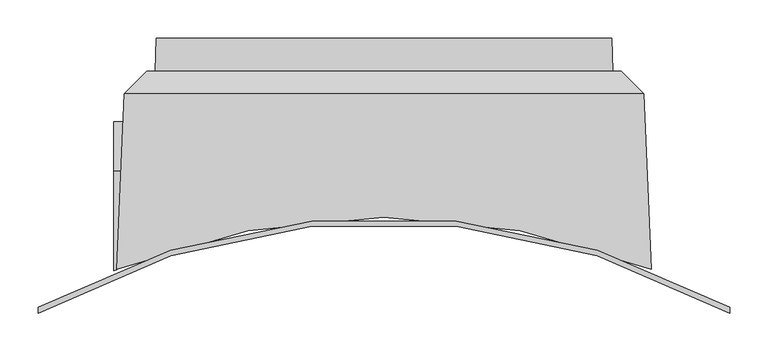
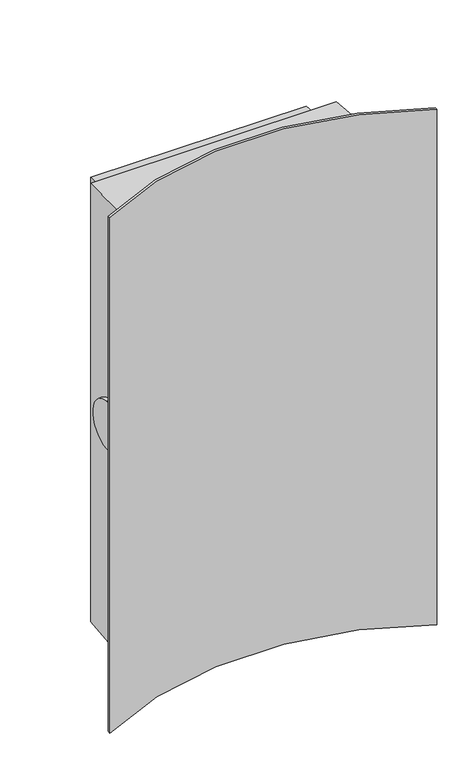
"""IFC4 building model written with IfcOpenShell, lengths in millimetres: proxy geometry, SU.MRADAPTOR.1850.600Lx1200W."""

from ifc_helpers import new_model, si_unit, frame, origin, place, context, project, spatial, polyline, circle_curve, ellipse_curve, source, transform, mapped, element, save
from ifc_brep_helpers import plane_surface, cylinder_surface, revolved_surface, advanced_brep


def generic_models_b710c0a7(model_context):
    return source(origin(), model_context, "Body", "AdvancedBrep", [
        advanced_brep(
        [(296.4984069, 250.0, -596.4984069), (-296.4984069, 250.0, -596.4984069), (-296.4984069, 250.0, 596.4984069), (296.4984069, 250.0, 596.4984069), (298.0, 207.0, -598.0), (-298.0, 207.0, -598.0), (-298.0, 207.0, 598.0), (298.0, 207.0, 598.0), (-450.0, -99.8385062, 750.0), (450.0, -99.8385062, 750.0), (450.0, -99.8385062, -750.0), (-450.0, -99.8385062, -750.0), (-347.7562357, -50.8590545, -80.0415625), (-347.7562357, -50.8590545, -647.7562357), (347.7562357, -50.8590545, -647.7562357), (347.7562357, -50.8590545, 647.7562357), (-347.7562357, -50.8590545, 647.7562357), (-347.7562357, -50.8590545, 80.0415625), (-352.0, -52.5930793, 80.1802845), (-352.0, -52.5930793, -80.1802845), (-338.1192031, 178.0204704, -638.1192031), (338.1192031, 178.0204704, -638.1192031), (-342.353871, 77.447108, -69.7770695), (-342.353871, 77.447108, 69.7770695), (-338.1192031, 178.0204704, 638.1192031), (-309.1396735, 207.0, -609.1396735), (309.1396735, 207.0, -609.1396735), (338.1192031, 178.0204704, 638.1192031), (-309.1396735, 207.0, 609.1396735), (309.1396735, 207.0, 609.1396735), (-352.0, 77.447108, 69.7770695), (-352.0, 77.447108, -69.7770695), (-450.0, -107.8600122, -750.0), (-450.0, -107.8600122, 750.0), (450.0, -107.8600122, -750.0), (450.0, -107.8600122, 750.0)],
        [
            (0, 1),
            (1, 2),
            (2, 3),
            (3, 0),
            (0, 4),
            (4, 5),
            (5, 1),
            (5, 6),
            (6, 2),
            (3, 7),
            (7, 4),
            (6, 7),
            (8, 9, circle_curve(frame((0.0, -908.0, 750.0), z_axis=(0.0, 0.0, -1.0), x_axis=(0.4864864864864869, 0.8736881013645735, 0.0)), 925.0)),
            (9, 10),
            (10, 11, circle_curve(frame((0.0, -908.0, -750.0), z_axis=(0.0, 0.0, 1.0), x_axis=(0.4864864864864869, 0.8736881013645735, 0.0)), 925.0)),
            (11, 8),
            (12, 13),
            (13, 14, ellipse_curve(frame((0.0, -908.0, -683.8463808), z_axis=(0.0, 0.04206798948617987, -0.9991147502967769), x_axis=(0.0, 0.9991147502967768, 0.042067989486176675)), 925.8195815, 925.0)),
            (14, 15),
            (15, 16, ellipse_curve(frame((0.0, -908.0, 683.8463808), z_axis=(0.0, 0.04206798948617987, 0.9991147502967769), x_axis=(0.0, -0.9991147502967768, 0.042067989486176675)), 925.8195815, 925.0)),
            (16, 17),
            (17, 18, ellipse_curve(frame((0.0, -908.0, 148.6128381), z_axis=(0.0, 0.07974522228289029, 0.9968152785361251), x_axis=(0.0, -0.9968152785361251, 0.07974522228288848)), 927.9552791, 925.0)),
            (18, 19),
            (19, 12, ellipse_curve(frame((0.0, -908.0, -148.6128381), z_axis=(0.0, 0.07974522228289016, -0.9968152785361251), x_axis=(0.0, 0.9968152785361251, 0.0797452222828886)), 927.9552791, 925.0)),
            (13, 20),
            (20, 21),
            (21, 14),
            (12, 22),
            (22, 23, ellipse_curve(frame((-342.5889096, 71.8649424, 0.0), z_axis=(0.9991147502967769, -0.04206798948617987, 0.0), x_axis=(-0.042067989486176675, -0.9991147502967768, 0.0)), 70.0620224, 70.0)),
            (23, 17),
            (16, 24),
            (24, 20),
            (20, 25),
            (25, 26),
            (26, 21),
            (15, 27),
            (27, 24),
            (24, 28),
            (28, 25),
            (27, 21),
            (26, 29),
            (29, 27),
            (29, 28),
            (23, 30),
            (30, 18),
            (19, 31),
            (31, 22),
            (30, 31, circle_curve(frame((-352.0, 71.8649424, 0.0), z_axis=(-1.0, 0.0, 0.0), x_axis=(0.0, 0.07974522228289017, -0.996815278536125)), 70.0)),
            (11, 32),
            (32, 33),
            (33, 8),
            (32, 34, circle_curve(frame((0.0, -908.0, -750.0), z_axis=(0.0, 0.0, -1.0), x_axis=(-0.49019607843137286, -0.8716121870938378, 0.0)), 918.0)),
            (34, 35),
            (35, 33, circle_curve(frame((0.0, -908.0, 750.0), z_axis=(0.0, 0.0, 1.0), x_axis=(-0.49019607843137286, -0.8716121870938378, 0.0)), 918.0)),
            (9, 35),
            (34, 10),
        ],
        [
            plane_surface(frame((248.0, 250.0, -596.4984069), z_axis=(0.0, 1.0, 0.0), x_axis=(0.0, 0.0, 1.0))),
            plane_surface(frame((-248.0, 207.0, -598.0), z_axis=(0.0, 0.03489949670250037, -0.9993908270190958), x_axis=(0.0, 0.9993908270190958, 0.03489949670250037))),
            plane_surface(frame((-298.0, 207.0, 548.0), z_axis=(-0.9993908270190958, 0.03489949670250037, 0.0), x_axis=(0.03489949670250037, 0.9993908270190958, 0.0))),
            plane_surface(frame((298.0, 207.0, -548.0), z_axis=(0.9993908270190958, 0.03489949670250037, 0.0), x_axis=(-0.03489949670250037, 0.9993908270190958, 0.0))),
            plane_surface(frame((248.0, 207.0, 598.0), z_axis=(0.0, 0.03489949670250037, 0.9993908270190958), x_axis=(0.0, 0.9993908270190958, -0.03489949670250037))),
            cylinder_surface(frame((0.0, -908.0, 0.0), z_axis=(0.0, 0.0, 1.0), x_axis=(0.4864864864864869, 0.8736881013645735, 0.0)), 925.0),
            plane_surface(frame((-248.0, -299.4172684, -658.2218447), z_axis=(0.0, 0.04206798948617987, -0.9991147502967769), x_axis=(0.0, 0.9991147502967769, 0.04206798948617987))),
            plane_surface(frame((-358.2218447, -299.4172684, 548.0), z_axis=(-0.9991147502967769, 0.04206798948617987, 0.0), x_axis=(0.04206798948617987, 0.9991147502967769, 0.0))),
            plane_surface(frame((-248.0, 178.0204704, -638.1192031), z_axis=(0.0, 0.7071067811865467, -0.7071067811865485), x_axis=(0.0, 0.7071067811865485, 0.7071067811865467))),
            plane_surface(frame((248.0, -299.4172684, 658.2218447), z_axis=(0.0, 0.04206798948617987, 0.9991147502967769), x_axis=(0.0, 0.9991147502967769, -0.04206798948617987))),
            plane_surface(frame((-338.1192031, 178.0204704, 548.0), z_axis=(-0.7071067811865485, 0.7071067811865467, 0.0), x_axis=(0.7071067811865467, 0.7071067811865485, 0.0))),
            plane_surface(frame((338.1192031, 178.0204704, -548.0), z_axis=(0.7071067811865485, 0.7071067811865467, 0.0), x_axis=(-0.7071067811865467, 0.7071067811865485, 0.0))),
            plane_surface(frame((358.2218447, -299.4172684, -548.0), z_axis=(0.9991147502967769, 0.04206798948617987, 0.0), x_axis=(-0.04206798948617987, 0.9991147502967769, 0.0))),
            plane_surface(frame((248.0, 178.0204704, 638.1192031), z_axis=(0.0, 0.7071067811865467, 0.7071067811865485), x_axis=(0.0, 0.7071067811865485, -0.7071067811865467))),
            plane_surface(frame((0.0, -169.1602084, 89.5056548), z_axis=(0.0, 0.07974522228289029, 0.9968152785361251), x_axis=(0.0, 0.9968152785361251, -0.07974522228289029))),
            plane_surface(frame((0.0, 77.447108, -69.7770695), z_axis=(0.0, 0.07974522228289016, -0.9968152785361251), x_axis=(0.0, -0.9968152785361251, -0.07974522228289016))),
            plane_surface(frame((-352.0, -13.647633, 0.0), z_axis=(-1.0, 0.0, 0.0), x_axis=(0.0, 0.0, -1.0))),
            cylinder_surface(frame((0.0, 71.8649424, 0.0), z_axis=(-0.9999999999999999, 0.0, 0.0), x_axis=(0.0, 0.07974522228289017, -0.996815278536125)), 70.0),
            plane_surface(frame((248.0, 207.0, -609.1396735), z_axis=(0.0, 1.0, 0.0), x_axis=(0.0, 0.0, 1.0))),
            plane_surface(frame((-450.0, -99.8385062, 0.0), z_axis=(-1.0, 0.0, 0.0), x_axis=(0.0, -1.0, 0.0))),
            revolved_surface(polyline([(-450.0000000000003, -1708.139987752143, 750.0), (-450.0000000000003, -1708.139987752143, -750.0)]), (0.0, -908.0, 0.0), (0.0, 0.0, 1.0)),
            plane_surface(frame((450.0, -107.8600122, 0.0), z_axis=(1.0, 0.0, 0.0), x_axis=(0.0, 1.0, 0.0))),
            plane_surface(frame((0.0, -45.4300061, 750.0), z_axis=(0.0, 0.0, 1.0), x_axis=(1.0, 0.0, 0.0))),
            plane_surface(frame((0.0, -45.4300061, -750.0), z_axis=(0.0, 0.0, -1.0), x_axis=(1.0, 0.0, 0.0))),
        ],
        [
            (0, [[1, 2, 3, 4]]),
            (1, [[-1, 5, 6, 7]]),
            (2, [[-7, 8, 9, -2]]),
            (3, [[-4, 10, 11, -5]]),
            (4, [[-3, -9, 12, -10]]),
            (5, [[13, 14, 15, 16], [17, 18, 19, 20, 21, 22, 23, 24]]),
            (6, [[25, 26, 27, -18]]),
            (7, [[-17, 28, 29, 30, -21, 31, 32, -25]]),
            (8, [[-26, 33, 34, 35]]),
            (9, [[-20, 36, 37, -31]]),
            (10, [[-32, 38, 39, -33]]),
            (11, [[40, -35, 41, 42]]),
            (12, [[-27, -40, -36, -19]]),
            (13, [[-37, -42, 43, -38]]),
            (14, [[-22, -30, 44, 45]]),
            (15, [[-24, 46, 47, -28]]),
            (16, [[-46, -23, -45, 48]]),
            (17, [[-48, -44, -29, -47]]),
            (18, [[-34, -39, -43, -41], [-6, -11, -12, -8]]),
            (19, [[-16, 49, 50, 51]]),
            (20, [[-50, 52, 53, 54]]),
            (21, [[-14, 55, -53, 56]]),
            (22, [[-51, -54, -55, -13]]),
            (23, [[-49, -15, -56, -52]]),
        ],
    ),
    ])


if __name__ == "__main__":
    model = new_model("IFC4")
    model_context = context("Model", 3, world=origin())
    ifc_project = project(units=[si_unit("LENGTHUNIT", "METRE", prefix="MILLI")], contexts=[model_context])
    site = spatial("IfcSite", under=ifc_project)
    building = spatial("IfcBuilding", under=site)
    placement = place(None, origin())
    generic_models_shape = generic_models_b710c0a7(model_context)
    element("IfcBuildingElementProxy", 1, Name="SU.MRADAPTOR.1850.600Lx1200W", ObjectType="SU.MRADAPTOR.1850.600Lx1200W", at=placement, inside=building, context=model_context, shape_type="MappedRepresentation", body=[
        mapped(generic_models_shape, transform((0.0, 0.0, 0.0), x_axis=(1.0, 0.0, 0.0), y_axis=(0.0, 1.0, 0.0), z_axis=(0.0, 0.0, 1.0))),
    ])
    save(model, "model.ifc")
